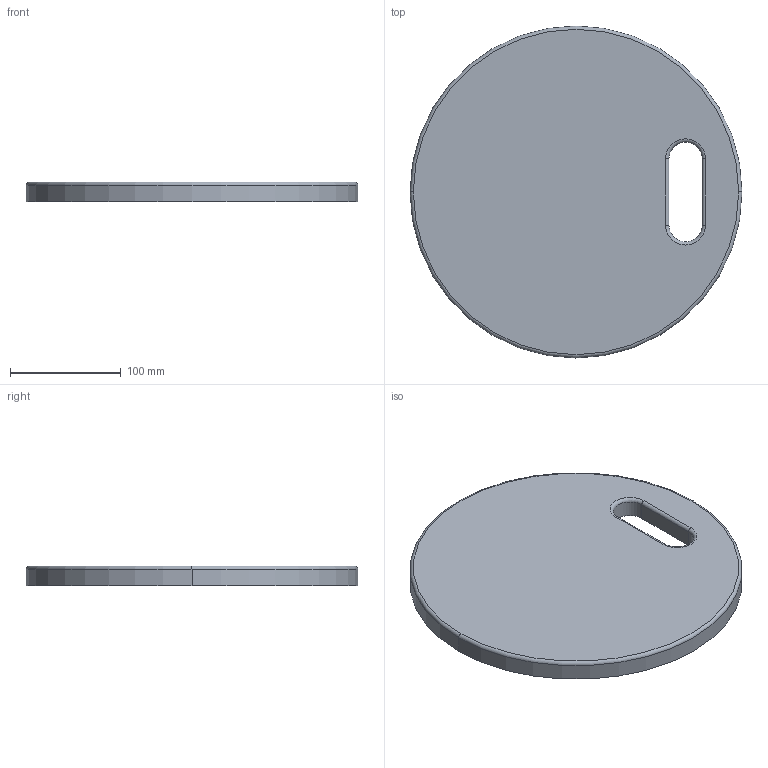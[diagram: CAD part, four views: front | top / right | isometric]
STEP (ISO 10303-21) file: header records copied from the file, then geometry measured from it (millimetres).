
FILE_DESCRIPTION (( 'STEP AP214' ), '1' );
FILE_NAME ('assise-superieure2.STEP', '2018-03-29T09:44:32', ( '' ), ( '' ), 'SwSTEP 2.0', 'SolidWorks 2014', '' );
FILE_SCHEMA (( 'AUTOMOTIVE_DESIGN' ));
Length unit declared in the file: millimetre
Products named in the file (1): assise-superieure2
Bounding box: 300 x 300 x 18 mm (x, y, z)
Volume: 430803.8 mm3; surface area: 173153 mm2
Topology: 1 solids, 1 shells, 25 faces, 54 edges, 34 vertices
Faces by surface type: cylinder 12, plane 9, torus 4
Entity records: 728 total; most frequent: DIRECTION 136, CARTESIAN_POINT 114, ORIENTED_EDGE 108, AXIS2_PLACEMENT_3D 56, EDGE_CURVE 54, VERTEX_POINT 34, EDGE_LOOP 30, CIRCLE 30
